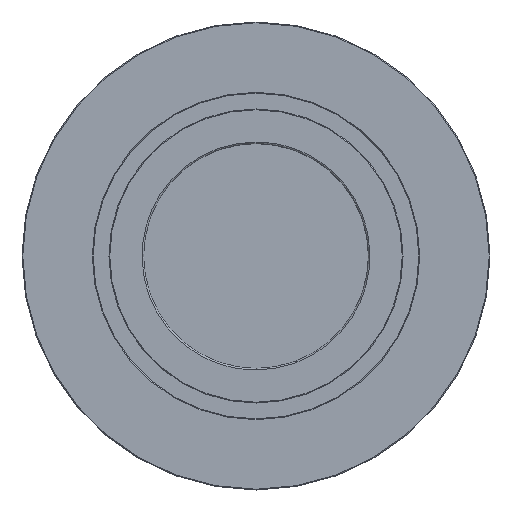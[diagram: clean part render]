
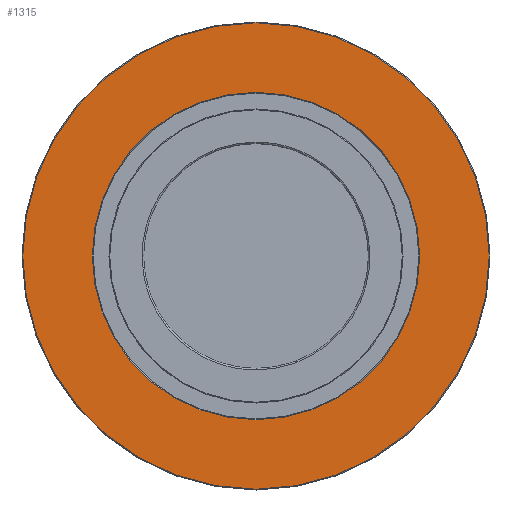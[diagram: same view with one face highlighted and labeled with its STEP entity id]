
A CAD part, front view. The second image highlights one B-rep face of the part: STEP entity #1315.
In plain terms, the highlighted planar face has unit normal (0, -1, 0).
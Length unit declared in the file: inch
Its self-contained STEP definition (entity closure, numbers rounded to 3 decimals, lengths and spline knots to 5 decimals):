
#46 = CARTESIAN_POINT ( 'NONE',  ( 0., 0., 0. ) ) ;
#49 = PLANE ( 'NONE',  #146 ) ;
#51 = DIRECTION ( 'NONE',  ( 0., 1., 0. ) ) ;
#52 = DIRECTION ( 'NONE',  ( 0., 0., 1. ) ) ;
#146 = AXIS2_PLACEMENT_3D ( 'NONE', #46, #51, #52 ) ;
#329 = ORIENTED_EDGE ( 'NONE', *, *, #560, .F. ) ;
#330 = ORIENTED_EDGE ( 'NONE', *, *, #568, .F. ) ;
#333 = ORIENTED_EDGE ( 'NONE', *, *, #556, .F. ) ;
#334 = ORIENTED_EDGE ( 'NONE', *, *, #580, .F. ) ;
#394 = VERTEX_POINT ( 'NONE', #653 ) ;
#396 = VERTEX_POINT ( 'NONE', #655 ) ;
#397 = VERTEX_POINT ( 'NONE', #656 ) ;
#400 = VERTEX_POINT ( 'NONE', #659 ) ;
#456 = CIRCLE ( 'NONE', #1079, 1.47138 ) ;
#461 = CIRCLE ( 'NONE', #1082, 1.03256 ) ;
#470 = FACE_OUTER_BOUND ( 'NONE', #1268, .T. ) ;
#477 = FACE_BOUND ( 'NONE', #1259, .T. ) ;
#556 = EDGE_CURVE ( 'NONE', #397, #400, #456, .T. ) ;
#560 = EDGE_CURVE ( 'NONE', #396, #394, #461, .T. ) ;
#568 = EDGE_CURVE ( 'NONE', #394, #396, #1117, .T. ) ;
#580 = EDGE_CURVE ( 'NONE', #400, #397, #1143, .T. ) ;
#653 = CARTESIAN_POINT ( 'NONE',  ( 0., 0., 1.03256 ) ) ;
#655 = CARTESIAN_POINT ( 'NONE',  ( 0., 0., -1.03256 ) ) ;
#656 = CARTESIAN_POINT ( 'NONE',  ( 0., 0., 1.47138 ) ) ;
#659 = CARTESIAN_POINT ( 'NONE',  ( 0., 0., -1.47138 ) ) ;
#769 = CARTESIAN_POINT ( 'NONE',  ( 0., 0., 0. ) ) ;
#770 = DIRECTION ( 'NONE',  ( 0., 1., 0. ) ) ;
#771 = DIRECTION ( 'NONE',  ( 0., 0., 1. ) ) ;
#780 = CARTESIAN_POINT ( 'NONE',  ( 0., 0., 0. ) ) ;
#781 = DIRECTION ( 'NONE',  ( 0., -1., 0. ) ) ;
#782 = DIRECTION ( 'NONE',  ( 0., 0., -1. ) ) ;
#801 = CARTESIAN_POINT ( 'NONE',  ( 0., 0., 0. ) ) ;
#802 = DIRECTION ( 'NONE',  ( 0., -1., 0. ) ) ;
#803 = DIRECTION ( 'NONE',  ( 0., 0., -1. ) ) ;
#838 = CARTESIAN_POINT ( 'NONE',  ( 0., 0., 0. ) ) ;
#839 = DIRECTION ( 'NONE',  ( 0., 1., 0. ) ) ;
#840 = DIRECTION ( 'NONE',  ( 0., 0., 1. ) ) ;
#1079 = AXIS2_PLACEMENT_3D ( 'NONE', #769, #770, #771 ) ;
#1082 = AXIS2_PLACEMENT_3D ( 'NONE', #780, #781, #782 ) ;
#1089 = AXIS2_PLACEMENT_3D ( 'NONE', #801, #802, #803 ) ;
#1097 = AXIS2_PLACEMENT_3D ( 'NONE', #838, #839, #840 ) ;
#1117 = CIRCLE ( 'NONE', #1089, 1.03256 ) ;
#1143 = CIRCLE ( 'NONE', #1097, 1.47138 ) ;
#1259 = EDGE_LOOP ( 'NONE', ( #329, #330 ) ) ;
#1268 = EDGE_LOOP ( 'NONE', ( #333, #334 ) ) ;
#1315 = ADVANCED_FACE ( 'NONE', ( #477, #470 ), #49, .F. ) ;
